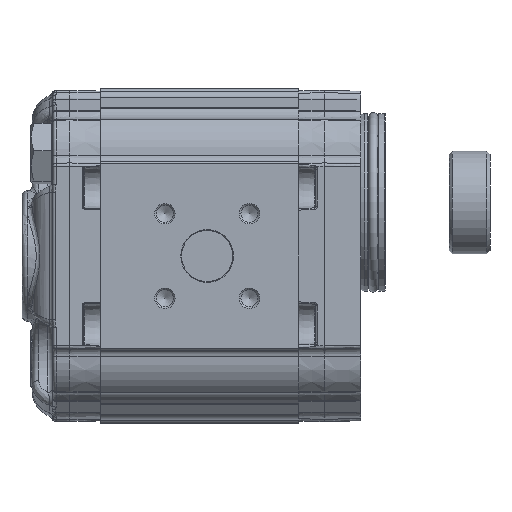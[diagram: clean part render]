
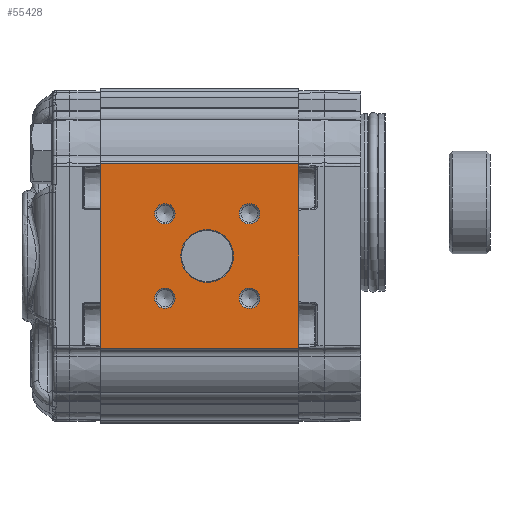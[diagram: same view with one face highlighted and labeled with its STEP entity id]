
A CAD part, left-side view. The second image highlights one B-rep face of the part: STEP entity #55428.
In plain terms, the highlighted planar face has unit normal (-1, 0, 0).
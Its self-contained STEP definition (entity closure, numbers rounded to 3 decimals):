
#3816=LINE('',#86627,#5917);
#3817=LINE('',#86630,#5918);
#3818=LINE('',#86632,#5919);
#3819=LINE('',#86634,#5920);
#5917=VECTOR('',#65821,1000.);
#5918=VECTOR('',#65822,1000.);
#5919=VECTOR('',#65823,1000.);
#5920=VECTOR('',#65824,1000.);
#13653=ORIENTED_EDGE('',*,*,#22654,.T.);
#13654=ORIENTED_EDGE('',*,*,#22655,.T.);
#13655=ORIENTED_EDGE('',*,*,#22656,.T.);
#13656=ORIENTED_EDGE('',*,*,#22657,.T.);
#13657=ORIENTED_EDGE('',*,*,#22658,.T.);
#13658=ORIENTED_EDGE('',*,*,#22659,.F.);
#13659=ORIENTED_EDGE('',*,*,#22660,.F.);
#13660=ORIENTED_EDGE('',*,*,#22661,.T.);
#13661=ORIENTED_EDGE('',*,*,#22662,.T.);
#22654=EDGE_CURVE('',#27475,#27475,#30380,.F.);
#22655=EDGE_CURVE('',#27476,#27476,#30381,.F.);
#22656=EDGE_CURVE('',#27477,#27477,#30382,.F.);
#22657=EDGE_CURVE('',#27478,#27478,#30383,.F.);
#22658=EDGE_CURVE('',#27479,#27479,#30384,.F.);
#22659=EDGE_CURVE('',#27480,#27481,#3816,.T.);
#22660=EDGE_CURVE('',#27482,#27480,#3817,.T.);
#22661=EDGE_CURVE('',#27482,#27483,#3818,.T.);
#22662=EDGE_CURVE('',#27483,#27481,#3819,.T.);
#27475=VERTEX_POINT('',#86618);
#27476=VERTEX_POINT('',#86620);
#27477=VERTEX_POINT('',#86622);
#27478=VERTEX_POINT('',#86624);
#27479=VERTEX_POINT('',#86626);
#27480=VERTEX_POINT('',#86628);
#27481=VERTEX_POINT('',#86629);
#27482=VERTEX_POINT('',#86631);
#27483=VERTEX_POINT('',#86633);
#30380=CIRCLE('',#58907,7.7);
#30381=CIRCLE('',#58908,3.);
#30382=CIRCLE('',#58909,3.);
#30383=CIRCLE('',#58910,3.);
#30384=CIRCLE('',#58911,3.);
#32335=EDGE_LOOP('',(#13653));
#32336=EDGE_LOOP('',(#13654));
#32337=EDGE_LOOP('',(#13655));
#32338=EDGE_LOOP('',(#13656));
#32339=EDGE_LOOP('',(#13657));
#32340=EDGE_LOOP('',(#13658,#13659,#13660,#13661));
#35079=FACE_BOUND('',#32335,.T.);
#35080=FACE_BOUND('',#32336,.T.);
#35081=FACE_BOUND('',#32337,.T.);
#35082=FACE_BOUND('',#32338,.T.);
#35083=FACE_BOUND('',#32339,.T.);
#35084=FACE_BOUND('',#32340,.T.);
#36878=PLANE('',#58906);
#55428=ADVANCED_FACE('',(#35079,#35080,#35081,#35082,#35083,#35084),#36878,
 .T.);
#58906=AXIS2_PLACEMENT_3D('',#86616,#65809,#65810);
#58907=AXIS2_PLACEMENT_3D('',#86617,#65811,#65812);
#58908=AXIS2_PLACEMENT_3D('',#86619,#65813,#65814);
#58909=AXIS2_PLACEMENT_3D('',#86621,#65815,#65816);
#58910=AXIS2_PLACEMENT_3D('',#86623,#65817,#65818);
#58911=AXIS2_PLACEMENT_3D('',#86625,#65819,#65820);
#65809=DIRECTION('',(-1.,0.,0.));
#65810=DIRECTION('',(0.,0.,1.));
#65811=DIRECTION('',(-1.,0.,0.));
#65812=DIRECTION('',(0.,0.,1.));
#65813=DIRECTION('',(-1.,0.,0.));
#65814=DIRECTION('',(0.,0.,1.));
#65815=DIRECTION('',(-1.,0.,0.));
#65816=DIRECTION('',(0.,0.,1.));
#65817=DIRECTION('',(-1.,0.,0.));
#65818=DIRECTION('',(0.,0.,1.));
#65819=DIRECTION('',(-1.,0.,0.));
#65820=DIRECTION('',(0.,0.,1.));
#65821=DIRECTION('',(0.,0.,-1.));
#65822=DIRECTION('',(0.,-1.,0.));
#65823=DIRECTION('',(0.,0.,-1.));
#65824=DIRECTION('',(0.,-1.,0.));
#86616=CARTESIAN_POINT('',(-43.,58.,27.048));
#86617=CARTESIAN_POINT('',(-43.,26.8,0.));
#86618=CARTESIAN_POINT('',(-43.,26.8,7.7));
#86619=CARTESIAN_POINT('',(-43.,39.174,-12.374));
#86620=CARTESIAN_POINT('',(-43.,39.174,-9.374));
#86621=CARTESIAN_POINT('',(-43.,39.174,12.374));
#86622=CARTESIAN_POINT('',(-43.,39.174,15.374));
#86623=CARTESIAN_POINT('',(-43.,14.426,12.374));
#86624=CARTESIAN_POINT('',(-43.,14.426,15.374));
#86625=CARTESIAN_POINT('',(-43.,14.426,-12.374));
#86626=CARTESIAN_POINT('',(-43.,14.426,-9.374));
#86627=CARTESIAN_POINT('',(-43.,0.,27.048));
#86628=CARTESIAN_POINT('',(-43.,0.,27.048));
#86629=CARTESIAN_POINT('',(-43.,0.,-27.048));
#86630=CARTESIAN_POINT('',(-43.,58.,27.048));
#86631=CARTESIAN_POINT('',(-43.,58.,27.048));
#86632=CARTESIAN_POINT('',(-43.,58.,27.048));
#86633=CARTESIAN_POINT('',(-43.,58.,-27.048));
#86634=CARTESIAN_POINT('',(-43.,58.,-27.048));
